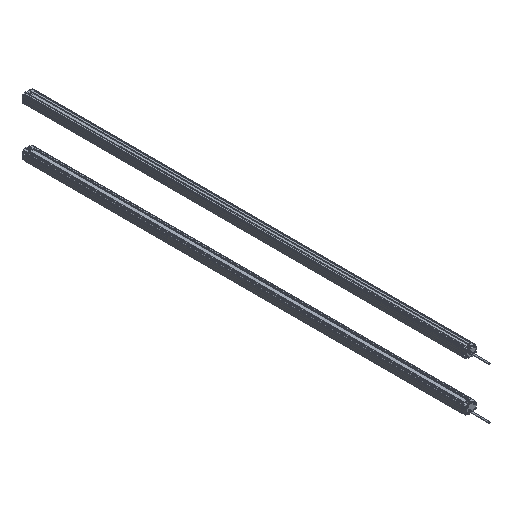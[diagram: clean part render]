
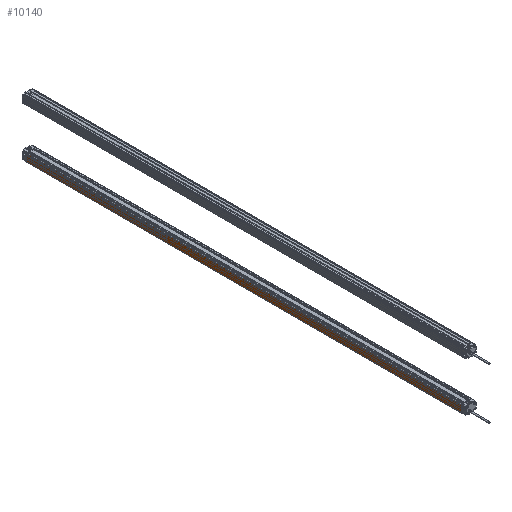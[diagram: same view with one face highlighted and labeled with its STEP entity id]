
A CAD part, isometric view. The second image highlights one B-rep face of the part: STEP entity #10140.
In plain terms, the highlighted planar face has unit normal (-1, 0, 0).
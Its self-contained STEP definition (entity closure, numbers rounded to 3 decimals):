
#103 = VECTOR ( 'NONE', #9728, 1000. ) ;
#166 = EDGE_CURVE ( 'NONE', #10689, #7016, #9708, .T. ) ;
#520 = DIRECTION ( 'NONE',  ( 0., 1., 0. ) ) ;
#1015 = CARTESIAN_POINT ( 'NONE',  ( -12.5, -1080., 8.293 ) ) ;
#1369 = CARTESIAN_POINT ( 'NONE',  ( -12.5, -1080., -9.2 ) ) ;
#1688 = FACE_OUTER_BOUND ( 'NONE', #7622, .T. ) ;
#2151 = LINE ( 'NONE', #8066, #9789 ) ;
#2414 = VERTEX_POINT ( 'NONE', #10588 ) ;
#2520 = CARTESIAN_POINT ( 'NONE',  ( -12.5, -1080., -9.2 ) ) ;
#3782 = CARTESIAN_POINT ( 'NONE',  ( -12.5, -1080., -9.2 ) ) ;
#4045 = DIRECTION ( 'NONE',  ( 0., 0., 1. ) ) ;
#4199 = LINE ( 'NONE', #3782, #103 ) ;
#4566 = VECTOR ( 'NONE', #4045, 1000. ) ;
#4896 = EDGE_CURVE ( 'NONE', #8612, #2414, #4199, .T. ) ;
#5106 = ORIENTED_EDGE ( 'NONE', *, *, #7829, .F. ) ;
#5224 = DIRECTION ( 'NONE',  ( 0., 1., 0. ) ) ;
#5616 = DIRECTION ( 'NONE',  ( -1., 0., 0. ) ) ;
#5740 = CARTESIAN_POINT ( 'NONE',  ( -12.5, 0., -9.2 ) ) ;
#5758 = LINE ( 'NONE', #1015, #7683 ) ;
#6007 = EDGE_CURVE ( 'NONE', #2414, #7016, #5758, .T. ) ;
#6060 = CARTESIAN_POINT ( 'NONE',  ( -12.5, 0., 8.293 ) ) ;
#6347 = ORIENTED_EDGE ( 'NONE', *, *, #6007, .T. ) ;
#6444 = DIRECTION ( 'NONE',  ( 0., 0., 1. ) ) ;
#7016 = VERTEX_POINT ( 'NONE', #6060 ) ;
#7329 = ORIENTED_EDGE ( 'NONE', *, *, #166, .F. ) ;
#7456 = AXIS2_PLACEMENT_3D ( 'NONE', #1369, #5616, #6444 ) ;
#7622 = EDGE_LOOP ( 'NONE', ( #7329, #5106, #9096, #6347 ) ) ;
#7683 = VECTOR ( 'NONE', #5224, 1000. ) ;
#7829 = EDGE_CURVE ( 'NONE', #8612, #10689, #2151, .T. ) ;
#8066 = CARTESIAN_POINT ( 'NONE',  ( -12.5, -1080., -9.2 ) ) ;
#8612 = VERTEX_POINT ( 'NONE', #2520 ) ;
#9096 = ORIENTED_EDGE ( 'NONE', *, *, #4896, .T. ) ;
#9130 = CARTESIAN_POINT ( 'NONE',  ( -12.5, 0., -9.2 ) ) ;
#9708 = LINE ( 'NONE', #5740, #4566 ) ;
#9728 = DIRECTION ( 'NONE',  ( 0., 0., 1. ) ) ;
#9789 = VECTOR ( 'NONE', #520, 1000. ) ;
#10140 = ADVANCED_FACE ( 'NONE', ( #1688 ), #10644, .T. ) ;
#10588 = CARTESIAN_POINT ( 'NONE',  ( -12.5, -1080., 8.293 ) ) ;
#10644 = PLANE ( 'NONE',  #7456 ) ;
#10689 = VERTEX_POINT ( 'NONE', #9130 ) ;
